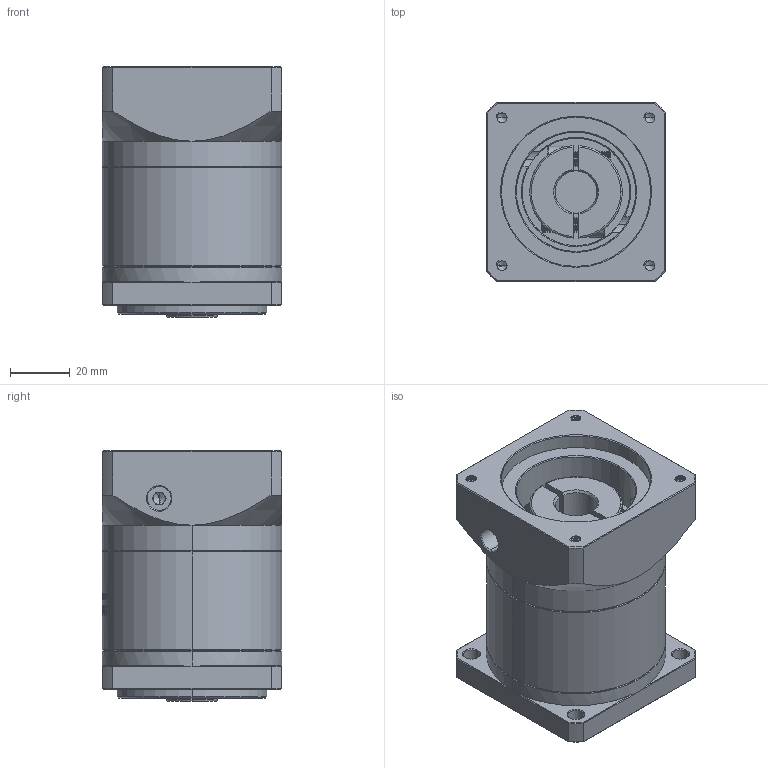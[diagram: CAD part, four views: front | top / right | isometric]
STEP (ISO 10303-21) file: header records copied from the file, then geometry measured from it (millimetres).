
FILE_DESCRIPTION (( 'STEP AP214' ), '1' );
FILE_NAME ('ZF060-K10-L1-P2-14-50-70-M4.step', '2023-08-16T04:29:51', ( '' ), ( '' ), 'SwSTEP 2.0', 'SolidWorks 2016', '' );
FILE_SCHEMA (( 'AUTOMOTIVE_DESIGN' ));
Length unit declared in the file: millimetre
Products named in the file (1): ZF060-K10-L1-P2-14-50-70-M4
Bounding box: 60 x 60 x 84 mm (x, y, z)
Volume: 214065.1 mm3; surface area: 42657.1 mm2
Topology: 6 solids, 6 shells, 1669 faces, 4524 edges, 2937 vertices
Faces by surface type: plane 787, bspline 347, cylinder 289, cone 228, torus 18
Entity records: 89897 total; most frequent: CARTESIAN_POINT 33375, ORIENTED_EDGE 9024, DIRECTION 6498, EDGE_CURVE 4512, VERTEX_POINT 2937, VECTOR 2312, LINE 2312, AXIS2_PLACEMENT_3D 2093
